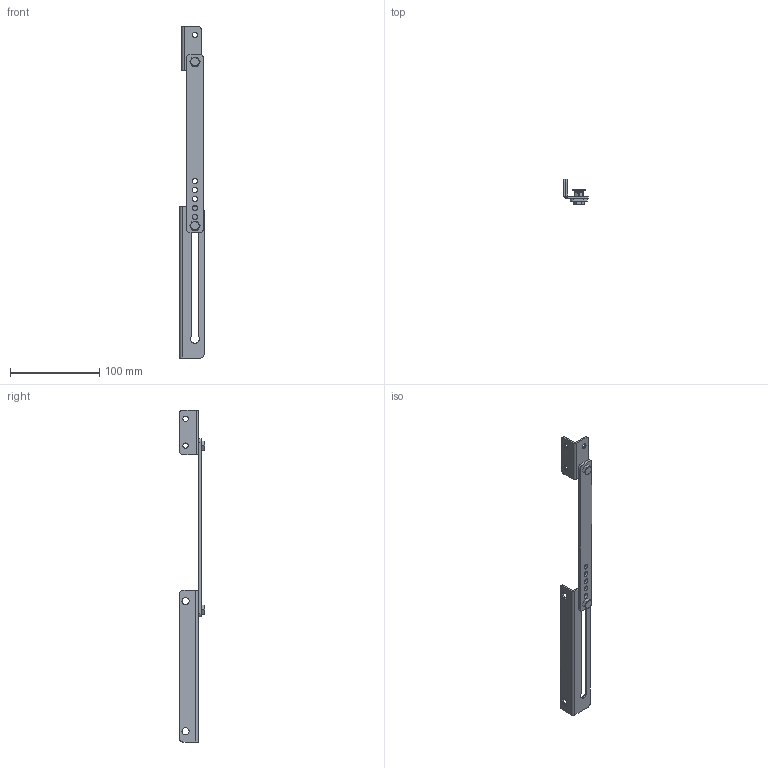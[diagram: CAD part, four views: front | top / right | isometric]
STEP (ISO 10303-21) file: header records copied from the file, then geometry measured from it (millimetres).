
FILE_DESCRIPTION((''),'2;1');
FILE_NAME('TX92-2BAOZHAO_ASM','2021-09-17T14:47:02',('015707'),(''),'CREO PARAMETRIC BY PTC INC, 2020342','CREO PARAMETRIC BY PTC INC, 2020342','');
FILE_SCHEMA(('CONFIG_CONTROL_DESIGN'));
Length unit declared in the file: millimetre
Products named in the file (7): CHENGGAN; LIANJIEGAN; ZHIJIA; LIUJIAOLUOSHUAN; M6SUOJINLUOMU; LUOMAO; TX92-2BAOZHAO_ASM
Assembly tree (7 placements, depth 2):
  TX92-2BAOZHAO_ASM
    CHENGGAN
    LIANJIEGAN
    ZHIJIA
    LIUJIAOLUOSHUAN  x2
    M6SUOJINLUOMU
    LUOMAO
Bounding box: 27 x 28.5 x 372.5 mm (x, y, z)
Volume: 29521.5 mm3; surface area: 29950 mm2
Topology: 7 solids, 8 shells, 219 faces, 572 edges, 370 vertices
Faces by surface type: cylinder 110, plane 67, bspline 28, cone 12, torus 2
Entity records: 8362 total; most frequent: CARTESIAN_POINT 3997, ORIENTED_EDGE 896, DIRECTION 839, EDGE_CURVE 450, AXIS2_PLACEMENT_3D 317, VERTEX_POINT 290, EDGE_LOOP 208, VECTOR 205
